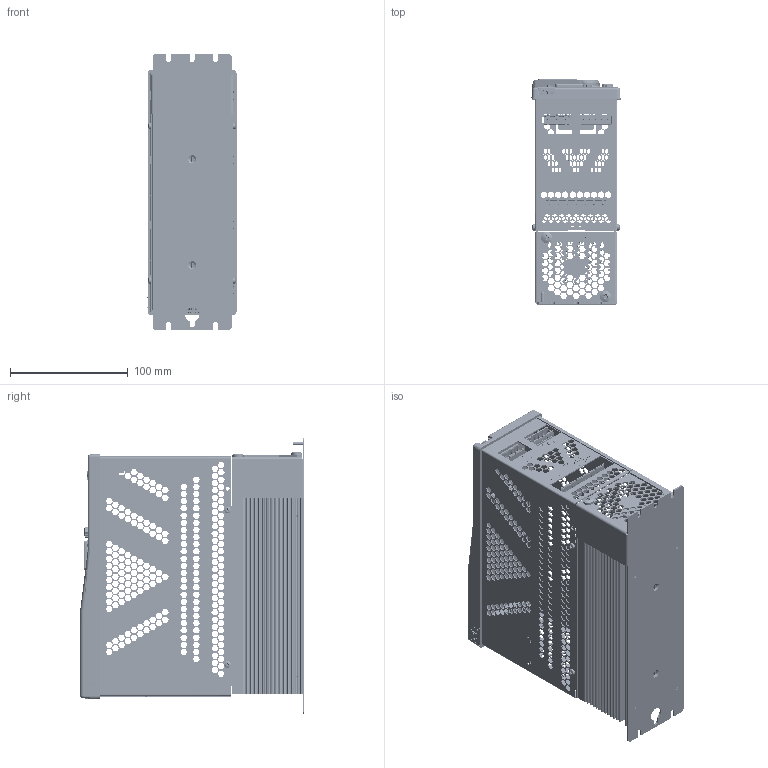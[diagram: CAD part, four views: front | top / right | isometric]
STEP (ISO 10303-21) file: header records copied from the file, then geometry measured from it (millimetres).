
FILE_DESCRIPTION(/* description */ (''),/* implementation_level */ '2;1');
FILE_NAME(/* name */ 'MD082208.0.0.stp',/* time_stamp */ '2022-02-25T09:39:05+01:00',/* author */ (''),/* organization */ (''),/* preprocessor_version */ 'ST-DEVELOPER v16.7',/* originating_system */ 'SIEMENS PLM Software NX 1880',/* authorisation */ '');
FILE_SCHEMA (('AUTOMOTIVE_DESIGN { 1 0 10303 214 3 1 1 1 }'));
Products named in the file (1): MD082208.0.0
Bounding box: 75.66 x 191.1 x 235 mm (x, y, z)
Volume: 440223.8 mm3; surface area: 440492.2 mm2
Topology: 249 solids, 249 shells, 12900 faces, 34971 edges, 22950 vertices
Faces by surface type: plane 9822, cylinder 1737, bspline 613, extrusion 328, cone 180, torus 172, sphere 29, revolution 19
Full cylindrical faces by diameter (mm): 0.007 x8, 0.434 x2, 0.6 x76, 0.8 x2, 0.9 x18, 1 x70, 1.2 x82, 1.4 x10, 1.5 x52, 1.8 x1, 2.261 x6, 2.5 x16, 2.767 x4, 2.8 x18, 2.84 x2, 2.9 x8, 3 x5, 3.05 x2, 3.3 x14, 3.5 x2, 4 x6, 4.2 x2, 4.8 x2, 5.1 x3, 5.3 x4, 5.6 x4, 6 x2, 6.3 x4, 7 x2, 8.1 x1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
Entity records: 506795 total; most frequent: CARTESIAN_POINT 124054, ORIENTED_EDGE 68462, DIRECTION 59896, EDGE_CURVE 34231, VECTOR 28335, LINE 28007, VERTEX_POINT 22880, AXIS2_PLACEMENT_3D 15771
